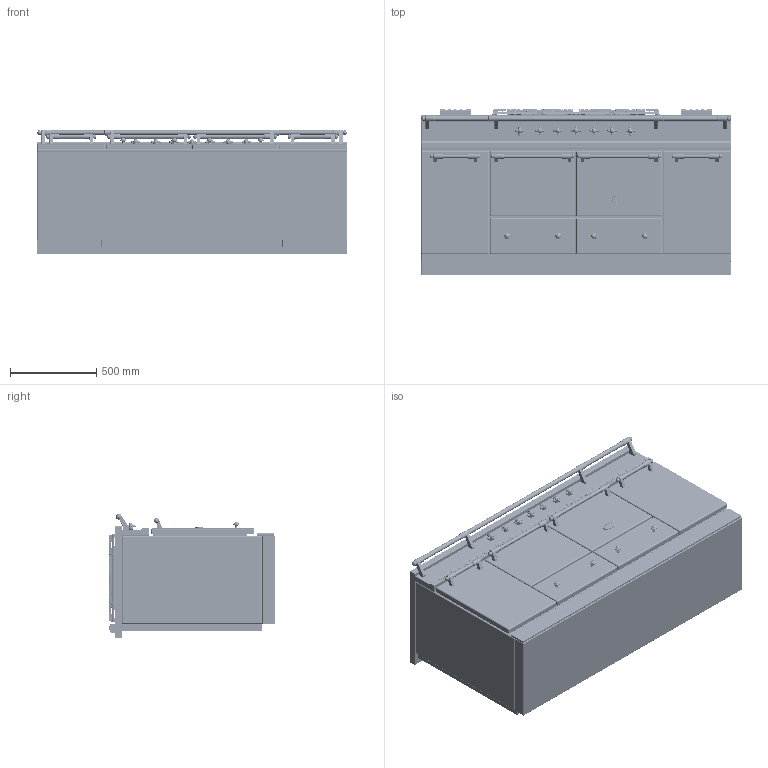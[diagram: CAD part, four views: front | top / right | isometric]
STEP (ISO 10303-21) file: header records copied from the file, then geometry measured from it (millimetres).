
FILE_DESCRIPTION((''),'2;1');
FILE_NAME('LG1852_ASM','2021-12-01T16:10:26',('r.avril'),(''),'CREO PARAMETRIC BY PTC INC, 2017260','CREO PARAMETRIC BY PTC INC, 2017260','');
FILE_SCHEMA(('AP203_CONFIGURATION_CONTROLLED_3D_DESIGN_OF_MECHANICAL_PARTS_AND_ASSEMBLIES_MIM_LF { 1 0 10303 403 2 1 2 }'));
Products named in the file (29): BASE_EXPORT_CLUNY_1800; 65650003; 65650004; 6531940; 6531941; 6531943; 6538399; 1931942; 65080022_AF0; 6531942_ASM; 65049009; 65650001; 65650006; 65650007; BASE_EXPORT_CLUNY_1800_ASM; TABLE_1805_CLASSIQUE; 3KW; 5KW; 1_5KW; 4KW; 6537025; 65149005; 90000488_ASM; 6537023; 90000565_ASM; CHEMINEE_2020_LG182_EXPORT_STEP; CHEMINEE_2020_LG371_EXPORT_STEP; TABLE_1805_CLASSIQUE_ASM; LG1852_ASM
Assembly tree (55 placements, depth 4):
  LG1852_ASM
    BASE_EXPORT_CLUNY_1800_ASM
      BASE_EXPORT_CLUNY_1800
      65650003
      65650004
      6531940  x4
      6531941  x4
      6531943  x4
      6531942_ASM  x7
        6538399
        1931942
        65080022_AF0
      65049009
      65650001
      65650006
      65650007
    TABLE_1805_CLASSIQUE_ASM
      TABLE_1805_CLASSIQUE
      3KW  x2
      5KW
      1_5KW
      4KW
      90000488_ASM  x2
        6537025
        65149005
      90000565_ASM  x2
        6537023
        65149005
      CHEMINEE_2020_LG182_EXPORT_STEP  x2
      CHEMINEE_2020_LG371_EXPORT_STEP  x2
Bounding box: 1805 x 965 x 724 mm (x, y, z)
Volume: 657720530.5 mm3; surface area: 16020720.5 mm2
Topology: 79 solids, 95 shells, 8960 faces, 23226 edges, 14358 vertices
Faces by surface type: plane 3577, cylinder 2868, bspline 1210, cone 396, torus 381, sphere 270, extrusion 238, revolution 20
Entity records: 177431 total; most frequent: CARTESIAN_POINT 52990, ORIENTED_EDGE 21362, DIRECTION 19907, EDGE_CURVE 10695, AXIS2_PLACEMENT_3D 6954, VERTEX_POINT 6635, VECTOR 5909, LINE 5859
